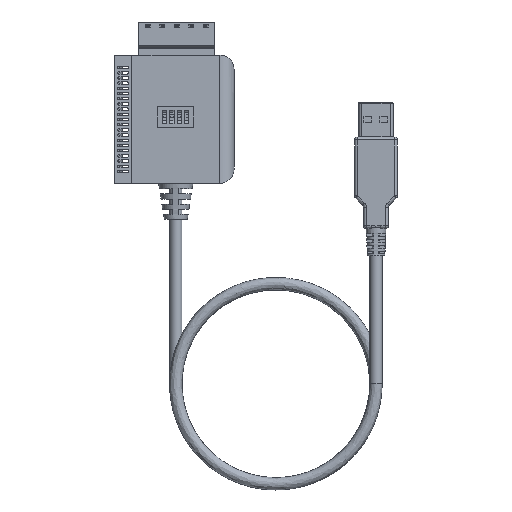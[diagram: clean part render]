
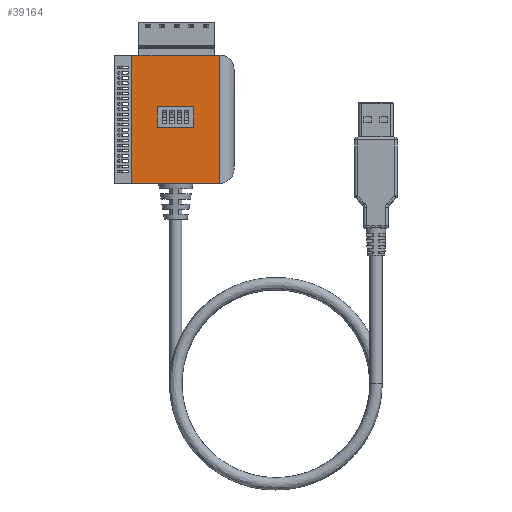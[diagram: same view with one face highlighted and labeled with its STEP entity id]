
A CAD part, front view. The second image highlights one B-rep face of the part: STEP entity #39164.
In plain terms, the highlighted planar face has unit normal (0, -1, 0).
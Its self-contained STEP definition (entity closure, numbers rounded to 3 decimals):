
#1397=FACE_BOUND('',#6871,.T.);
#2699=PLANE('',#41594);
#4651=FACE_OUTER_BOUND('',#6870,.T.);
#6870=EDGE_LOOP('',(#35118,#35119,#35120,#35121));
#6871=EDGE_LOOP('',(#35122,#35123,#35124,#35125));
#10626=LINE('',#78399,#14779);
#10628=LINE('',#78403,#14781);
#10630=LINE('',#78407,#14783);
#10632=LINE('',#78410,#14785);
#10655=LINE('',#78456,#14808);
#10919=LINE('',#79224,#15072);
#10920=LINE('',#79226,#15073);
#10921=LINE('',#79227,#15074);
#14779=VECTOR('',#49062,10.);
#14781=VECTOR('',#49066,10.);
#14783=VECTOR('',#49070,10.);
#14785=VECTOR('',#49074,10.);
#14808=VECTOR('',#49115,10.);
#15072=VECTOR('',#49867,10.);
#15073=VECTOR('',#49868,10.);
#15074=VECTOR('',#49869,10.);
#19089=VERTEX_POINT('',#78396);
#19090=VERTEX_POINT('',#78398);
#19091=VERTEX_POINT('',#78402);
#19092=VERTEX_POINT('',#78406);
#19105=VERTEX_POINT('',#78453);
#19106=VERTEX_POINT('',#78455);
#19366=VERTEX_POINT('',#79223);
#19367=VERTEX_POINT('',#79225);
#24288=EDGE_CURVE('',#19090,#19089,#10626,.T.);
#24290=EDGE_CURVE('',#19091,#19090,#10628,.T.);
#24292=EDGE_CURVE('',#19092,#19091,#10630,.T.);
#24294=EDGE_CURVE('',#19089,#19092,#10632,.T.);
#24318=EDGE_CURVE('',#19105,#19106,#10655,.T.);
#24712=EDGE_CURVE('',#19366,#19106,#10919,.T.);
#24713=EDGE_CURVE('',#19367,#19105,#10920,.T.);
#24714=EDGE_CURVE('',#19366,#19367,#10921,.T.);
#35118=ORIENTED_EDGE('',*,*,#24712,.T.);
#35119=ORIENTED_EDGE('',*,*,#24318,.F.);
#35120=ORIENTED_EDGE('',*,*,#24713,.F.);
#35121=ORIENTED_EDGE('',*,*,#24714,.F.);
#35122=ORIENTED_EDGE('',*,*,#24292,.T.);
#35123=ORIENTED_EDGE('',*,*,#24290,.T.);
#35124=ORIENTED_EDGE('',*,*,#24288,.T.);
#35125=ORIENTED_EDGE('',*,*,#24294,.T.);
#39164=ADVANCED_FACE('',(#4651,#1397),#2699,.T.);
#41594=AXIS2_PLACEMENT_3D('',#79222,#49865,#49866);
#49062=DIRECTION('',(-1.,0.,0.));
#49066=DIRECTION('',(0.,0.,-1.));
#49070=DIRECTION('',(1.,0.,0.));
#49074=DIRECTION('',(0.,0.,1.));
#49115=DIRECTION('',(-1.,0.,0.));
#49865=DIRECTION('center_axis',(0.,-1.,0.));
#49866=DIRECTION('ref_axis',(1.,0.,0.));
#49867=DIRECTION('',(0.,0.,-1.));
#49868=DIRECTION('',(0.,0.,-1.));
#49869=DIRECTION('',(1.,0.,0.));
#78396=CARTESIAN_POINT('',(-6.025,-11.,-2.845));
#78398=CARTESIAN_POINT('',(6.875,-11.,-2.845));
#78399=CARTESIAN_POINT('',(-7.,-11.,-2.845));
#78402=CARTESIAN_POINT('',(6.875,-11.,4.355));
#78403=CARTESIAN_POINT('',(6.875,-11.,2.178));
#78406=CARTESIAN_POINT('',(-6.025,-11.,4.355));
#78407=CARTESIAN_POINT('',(-13.45,-11.,4.355));
#78410=CARTESIAN_POINT('',(-6.025,-11.,-1.423));
#78453=CARTESIAN_POINT('',(15.875,-11.,-22.425));
#78455=CARTESIAN_POINT('',(-14.875,-11.,-22.425));
#78456=CARTESIAN_POINT('',(-20.875,-11.,-22.425));
#79222=CARTESIAN_POINT('Origin',(-20.875,-11.,0.));
#79223=CARTESIAN_POINT('',(-14.875,-11.,22.425));
#79224=CARTESIAN_POINT('',(-14.875,-11.,0.));
#79225=CARTESIAN_POINT('',(15.875,-11.,22.425));
#79226=CARTESIAN_POINT('',(15.875,-11.,0.));
#79227=CARTESIAN_POINT('',(-20.875,-11.,22.425));
